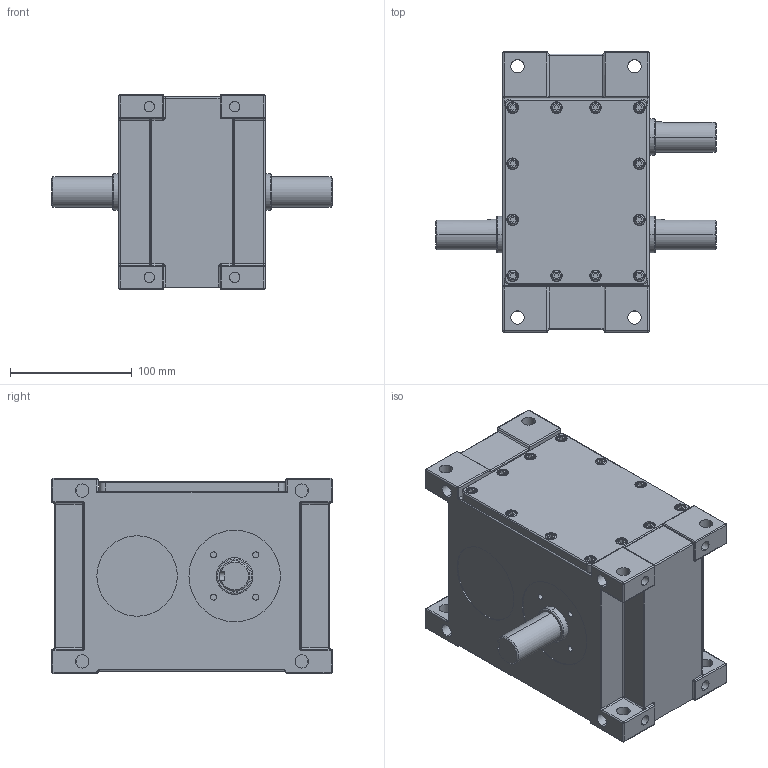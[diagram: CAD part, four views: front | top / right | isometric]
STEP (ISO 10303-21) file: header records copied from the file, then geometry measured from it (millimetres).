
FILE_DESCRIPTION((''),'2;1');
FILE_NAME('P80','2015-01-16T',('松仔'),(''),'PRO/ENGINEER BY PARAMETRIC TECHNOLOGY CORPORATION, 2013430','PRO/ENGINEER BY PARAMETRIC TECHNOLOGY CORPORATION, 2013430','');
FILE_SCHEMA(('CONFIG_CONTROL_DESIGN'));
Length unit declared in the file: millimetre
Products named in the file (1): P80
Bounding box: 230 x 230 x 160 mm (x, y, z)
Volume: 3975218.9 mm3; surface area: 205928.4 mm2
Topology: 1 solids, 1 shells, 615 faces, 1340 edges, 797 vertices
Faces by surface type: cylinder 275, plane 209, torus 60, sphere 52, bspline 16, cone 3
Entity records: 17815 total; most frequent: CARTESIAN_POINT 4011, DIRECTION 3101, ORIENTED_EDGE 2680, EDGE_CURVE 1340, AXIS2_PLACEMENT_3D 1217, VERTEX_POINT 797, EDGE_LOOP 701, VECTOR 667
